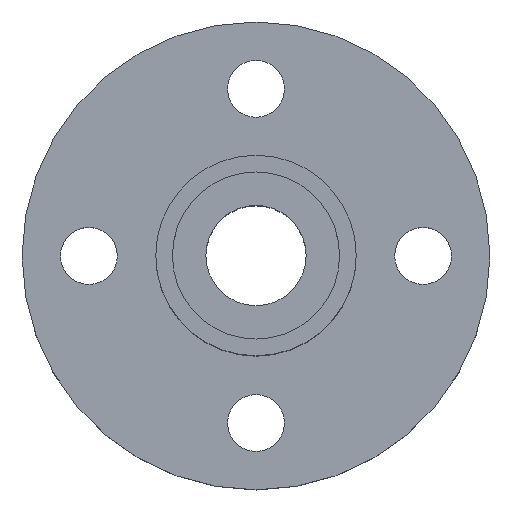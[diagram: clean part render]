
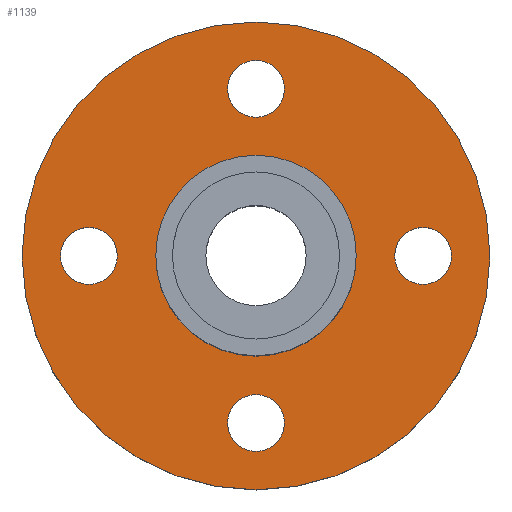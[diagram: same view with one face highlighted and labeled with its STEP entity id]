
A CAD part, top view. The second image highlights one B-rep face of the part: STEP entity #1139.
In plain terms, the highlighted planar face has unit normal (0, 0, 1).
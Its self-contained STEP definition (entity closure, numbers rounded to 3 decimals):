
#51=CARTESIAN_POINT('',(-14.,-0.1,5.0));
#52=VERTEX_POINT('',#51);
#68=CARTESIAN_POINT('',(14.,-0.1,5.0));
#69=VERTEX_POINT('',#68);
#76=CARTESIAN_POINT('',(0.0,-0.1,5.0));
#77=DIRECTION('',(0.0,0.0,-1.0));
#78=DIRECTION('',(-1.0,0.0,0.0));
#79=AXIS2_PLACEMENT_3D('',#76,#77,#78);
#80=CIRCLE('',#79,14.);
#81=EDGE_CURVE('',#69,#52,#80,.T.);
#133=CARTESIAN_POINT('',(-6.,-0.1,5.0));
#134=VERTEX_POINT('',#133);
#143=CARTESIAN_POINT('',(6.,-0.1,5.0));
#144=VERTEX_POINT('',#143);
#145=CARTESIAN_POINT('',(0.0,-0.1,5.0));
#146=DIRECTION('',(0.0,0.0,-1.0));
#147=DIRECTION('',(-1.0,0.0,0.0));
#148=AXIS2_PLACEMENT_3D('',#145,#146,#147);
#149=CIRCLE('',#148,6.);
#150=EDGE_CURVE('',#144,#134,#149,.T.);
#345=CARTESIAN_POINT('',(0.0,8.2,5.0));
#346=VERTEX_POINT('',#345);
#362=CARTESIAN_POINT('',(0.,11.6,5.));
#363=VERTEX_POINT('',#362);
#370=CARTESIAN_POINT('',(0.0,9.9,5.));
#371=DIRECTION('',(0.0,0.0,-1.0));
#372=DIRECTION('',(0.0,-1.0,0.0));
#373=AXIS2_PLACEMENT_3D('',#370,#371,#372);
#374=CIRCLE('',#373,1.7);
#375=EDGE_CURVE('',#346,#363,#374,.T.);
#429=CARTESIAN_POINT('',(-8.3,-0.1,5.0));
#430=VERTEX_POINT('',#429);
#446=CARTESIAN_POINT('',(-11.7,-0.1,5.));
#447=VERTEX_POINT('',#446);
#454=CARTESIAN_POINT('',(-10.0,-0.1,5.));
#455=DIRECTION('',(0.0,0.0,-1.0));
#456=DIRECTION('',(1.0,0.0,0.0));
#457=AXIS2_PLACEMENT_3D('',#454,#455,#456);
#458=CIRCLE('',#457,1.7);
#459=EDGE_CURVE('',#430,#447,#458,.T.);
#513=CARTESIAN_POINT('',(0.,-8.4,5.0));
#514=VERTEX_POINT('',#513);
#530=CARTESIAN_POINT('',(0.,-11.8,5.));
#531=VERTEX_POINT('',#530);
#538=CARTESIAN_POINT('',(0.,-10.1,5.));
#539=DIRECTION('',(0.0,0.0,-1.0));
#540=DIRECTION('',(0.0,1.0,0.0));
#541=AXIS2_PLACEMENT_3D('',#538,#539,#540);
#542=CIRCLE('',#541,1.7);
#543=EDGE_CURVE('',#514,#531,#542,.T.);
#597=CARTESIAN_POINT('',(8.3,-0.1,5.0));
#598=VERTEX_POINT('',#597);
#614=CARTESIAN_POINT('',(11.7,-0.1,5.));
#615=VERTEX_POINT('',#614);
#622=CARTESIAN_POINT('',(10.0,-0.1,5.));
#623=DIRECTION('',(0.0,0.0,-1.0));
#624=DIRECTION('',(-1.0,0.0,0.0));
#625=AXIS2_PLACEMENT_3D('',#622,#623,#624);
#626=CIRCLE('',#625,1.7);
#627=EDGE_CURVE('',#598,#615,#626,.T.);
#638=CARTESIAN_POINT('',(10.0,-0.1,5.));
#639=DIRECTION('',(0.0,0.0,-1.0));
#640=DIRECTION('',(-1.0,0.0,0.0));
#641=AXIS2_PLACEMENT_3D('',#638,#639,#640);
#642=CIRCLE('',#641,1.7);
#643=EDGE_CURVE('',#615,#598,#642,.T.);
#700=CARTESIAN_POINT('',(0.,-10.1,5.));
#701=DIRECTION('',(0.0,0.0,-1.0));
#702=DIRECTION('',(0.0,1.0,0.0));
#703=AXIS2_PLACEMENT_3D('',#700,#701,#702);
#704=CIRCLE('',#703,1.7);
#705=EDGE_CURVE('',#531,#514,#704,.T.);
#762=CARTESIAN_POINT('',(-10.0,-0.1,5.));
#763=DIRECTION('',(0.0,0.0,-1.0));
#764=DIRECTION('',(1.0,0.0,0.0));
#765=AXIS2_PLACEMENT_3D('',#762,#763,#764);
#766=CIRCLE('',#765,1.7);
#767=EDGE_CURVE('',#447,#430,#766,.T.);
#824=CARTESIAN_POINT('',(0.0,9.9,5.));
#825=DIRECTION('',(0.0,0.0,-1.0));
#826=DIRECTION('',(0.0,-1.0,0.0));
#827=AXIS2_PLACEMENT_3D('',#824,#825,#826);
#828=CIRCLE('',#827,1.7);
#829=EDGE_CURVE('',#363,#346,#828,.T.);
#1056=CARTESIAN_POINT('',(0.0,-0.1,5.0));
#1057=DIRECTION('',(0.0,0.0,-1.0));
#1058=DIRECTION('',(-1.0,0.0,0.0));
#1059=AXIS2_PLACEMENT_3D('',#1056,#1057,#1058);
#1060=CIRCLE('',#1059,6.);
#1061=EDGE_CURVE('',#134,#144,#1060,.T.);
#1098=CARTESIAN_POINT('',(0.0,-0.1,5.0));
#1099=DIRECTION('',(0.0,0.0,-1.0));
#1100=DIRECTION('',(-1.0,0.0,0.0));
#1101=AXIS2_PLACEMENT_3D('',#1098,#1099,#1100);
#1102=CIRCLE('',#1101,14.);
#1103=EDGE_CURVE('',#52,#69,#1102,.T.);
#1110=CARTESIAN_POINT('',(0.0,-0.1,5.0));
#1111=DIRECTION('',(0.0,0.0,-1.0));
#1112=DIRECTION('',(-1.0,0.0,0.0));
#1113=AXIS2_PLACEMENT_3D('',#1110,#1111,#1112);
#1114=PLANE('',#1113);
#1115=ORIENTED_EDGE('',*,*,#81,.F.);
#1116=ORIENTED_EDGE('',*,*,#1103,.F.);
#1117=EDGE_LOOP('',(#1115,#1116));
#1118=FACE_OUTER_BOUND('',#1117,.T.);
#1119=ORIENTED_EDGE('',*,*,#627,.T.);
#1120=ORIENTED_EDGE('',*,*,#643,.T.);
#1121=EDGE_LOOP('',(#1119,#1120));
#1122=FACE_BOUND('',#1121,.T.);
#1123=ORIENTED_EDGE('',*,*,#543,.T.);
#1124=ORIENTED_EDGE('',*,*,#705,.T.);
#1125=EDGE_LOOP('',(#1123,#1124));
#1126=FACE_BOUND('',#1125,.T.);
#1127=ORIENTED_EDGE('',*,*,#459,.T.);
#1128=ORIENTED_EDGE('',*,*,#767,.T.);
#1129=EDGE_LOOP('',(#1127,#1128));
#1130=FACE_BOUND('',#1129,.T.);
#1131=ORIENTED_EDGE('',*,*,#375,.T.);
#1132=ORIENTED_EDGE('',*,*,#829,.T.);
#1133=EDGE_LOOP('',(#1131,#1132));
#1134=FACE_BOUND('',#1133,.T.);
#1135=ORIENTED_EDGE('',*,*,#150,.T.);
#1136=ORIENTED_EDGE('',*,*,#1061,.T.);
#1137=EDGE_LOOP('',(#1135,#1136));
#1138=FACE_BOUND('',#1137,.T.);
#1139=ADVANCED_FACE('',(#1118,#1122,#1126,#1130,#1134,#1138),#1114,.F.);
